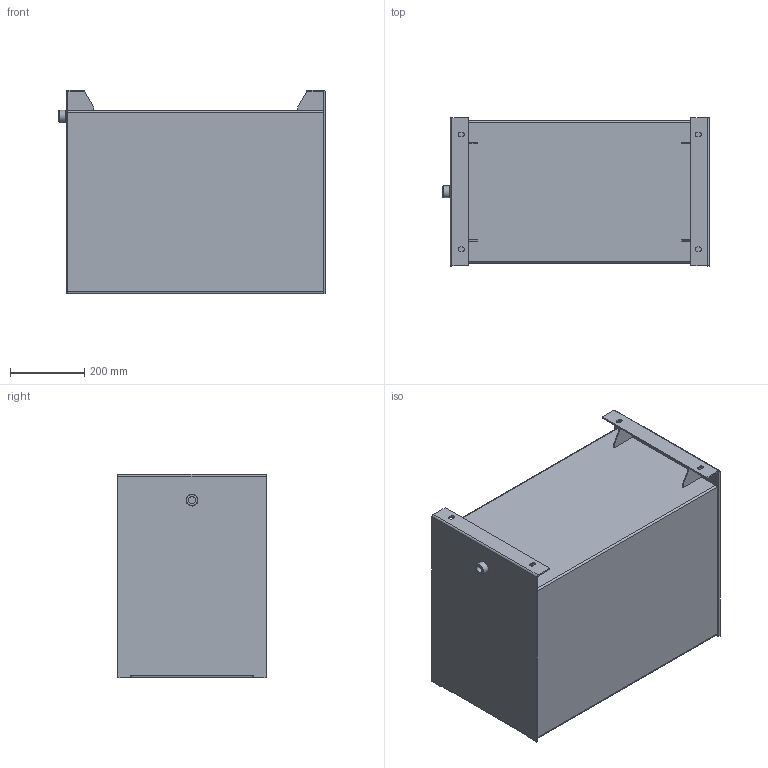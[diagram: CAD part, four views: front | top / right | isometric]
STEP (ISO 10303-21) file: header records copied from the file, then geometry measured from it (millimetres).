
FILE_DESCRIPTION (( 'STEP AP203' ), '1' );
FILE_NAME ('CFP100.STEP', '2017-12-13T07:49:14', ( '' ), ( '' ), 'SwSTEP 2.0', 'SolidWorks 2016', '' );
FILE_SCHEMA (( 'CONFIG_CONTROL_DESIGN' ));
Length unit declared in the file: millimetre
Products named in the file (1): CFP100
Bounding box: 720 x 400 x 550 mm (x, y, z)
Volume: 5919438.6 mm3; surface area: 3005919.8 mm2
Topology: 18 solids, 18 shells, 253 faces, 594 edges, 377 vertices
Faces by surface type: plane 200, cylinder 51, cone 2
Full cylindrical faces by diameter (mm): 6.8 x10, 8.5 x10, 19 x1, 20 x1, 32 x1
Entity records: 7057 total; most frequent: CARTESIAN_POINT 1182, DIRECTION 1172, ORIENTED_EDGE 1120, EDGE_CURVE 560, VECTOR 456, LINE 456, VERTEX_POINT 368, AXIS2_PLACEMENT_3D 358
